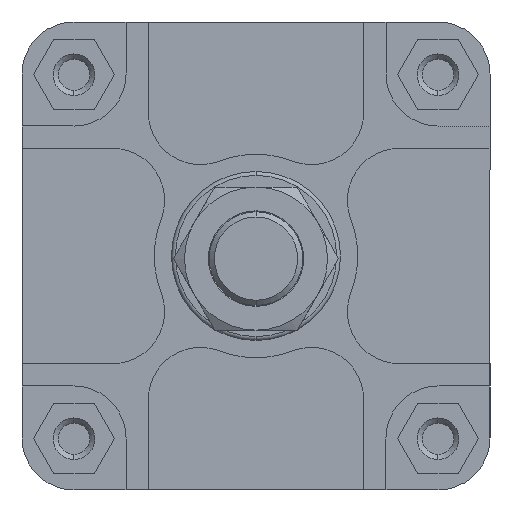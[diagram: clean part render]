
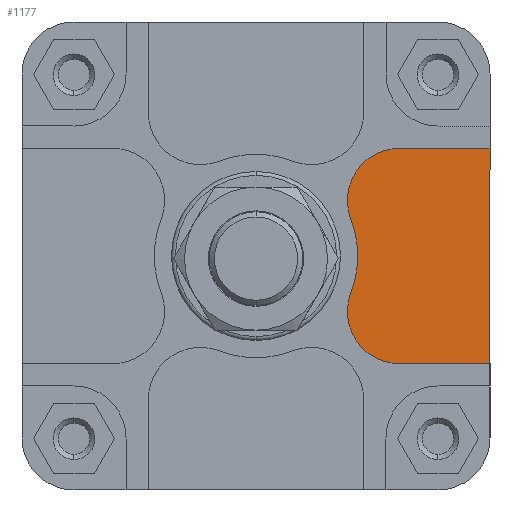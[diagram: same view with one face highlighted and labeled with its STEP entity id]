
A CAD part, left-side view. The second image highlights one B-rep face of the part: STEP entity #1177.
In plain terms, the highlighted planar face has unit normal (-1, 0, 0).
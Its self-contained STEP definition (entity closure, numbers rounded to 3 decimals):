
#1177=ADVANCED_FACE('0:209',(#2395),#2396,.T.);
#2395=FACE_OUTER_BOUND('',#3629,.T.);
#2396=PLANE('',#3630);
#3629=EDGE_LOOP('',(#6724,#6725,#6726,#6727,#6728,#6729));
#3630=AXIS2_PLACEMENT_3D('',#6730,#6731,#6732);
#6724=ORIENTED_EDGE('',*,*,#8381,.F.);
#6725=ORIENTED_EDGE('',*,*,#8382,.F.);
#6726=ORIENTED_EDGE('',*,*,#8383,.F.);
#6727=ORIENTED_EDGE('',*,*,#8323,.F.);
#6728=ORIENTED_EDGE('',*,*,#8384,.F.);
#6729=ORIENTED_EDGE('',*,*,#8385,.F.);
#6730=CARTESIAN_POINT('',(-2.,0.0,-370.36));
#6731=DIRECTION('',(-1.0,0.0,0.));
#6732=DIRECTION('',(0.0,1.0,0.0));
#8323=EDGE_CURVE('0:668',#10162,#10164,#10165,.T.);
#8381=EDGE_CURVE('0:800',#10252,#10253,#10254,.T.);
#8382=EDGE_CURVE('0:803',#10255,#10252,#10256,.T.);
#8383=EDGE_CURVE('0:806',#10164,#10255,#10257,.T.);
#8384=EDGE_CURVE('0:809',#10258,#10162,#10259,.T.);
#8385=EDGE_CURVE('0:812',#10253,#10258,#10260,.T.);
#10162=VERTEX_POINT('',#13100);
#10164=VERTEX_POINT('',#13103);
#10165=LINE('',#13104,#13105);
#10252=VERTEX_POINT('',#13219);
#10253=VERTEX_POINT('',#13220);
#10254=CIRCLE('',#13221,39.15);
#10255=VERTEX_POINT('',#13222);
#10256=CIRCLE('',#13223,20.);
#10257=LINE('',#13224,#13225);
#10258=VERTEX_POINT('',#13226);
#10259=LINE('',#13227,#13228);
#10260=CIRCLE('',#13229,20.);
#13100=CARTESIAN_POINT('',(-2.,-90.0,-328.96));
#13103=CARTESIAN_POINT('',(-2.,-90.,-411.76));
#13104=CARTESIAN_POINT('',(-2.,-90.0,-370.36));
#13105=VECTOR('',#14853,0.001);
#13219=CARTESIAN_POINT('',(-2.,-36.498,-384.524));
#13220=CARTESIAN_POINT('',(-2.,-36.498,-356.196));
#13221=AXIS2_PLACEMENT_3D('',#14929,#14930,#14931);
#13222=CARTESIAN_POINT('',(-2.,-55.143,-411.76));
#13223=AXIS2_PLACEMENT_3D('',#14932,#14933,#14934);
#13224=CARTESIAN_POINT('',(-2.,-36.286,-411.76));
#13225=VECTOR('',#14935,0.001);
#13226=CARTESIAN_POINT('',(-2.,-55.143,-328.96));
#13227=CARTESIAN_POINT('',(-2.,-36.286,-328.96));
#13228=VECTOR('',#14936,0.001);
#13229=AXIS2_PLACEMENT_3D('',#14937,#14938,#14939);
#14853=DIRECTION('',(0.,0.,-1.0));
#14929=CARTESIAN_POINT('',(-2.,0.,-370.36));
#14930=DIRECTION('',(-1.0,0.,0.));
#14931=DIRECTION('',(0.,-0.932,-0.362));
#14932=CARTESIAN_POINT('',(-2.,-55.143,-391.76));
#14933=DIRECTION('',(1.0,0.0,0.));
#14934=DIRECTION('',(0.,0.,-1.0));
#14935=DIRECTION('',(0.,1.0,0.));
#14936=DIRECTION('',(0.,-1.0,0.));
#14937=CARTESIAN_POINT('',(-2.,-55.143,-348.96));
#14938=DIRECTION('',(1.0,0.,0.));
#14939=DIRECTION('',(0.,0.,1.0));
